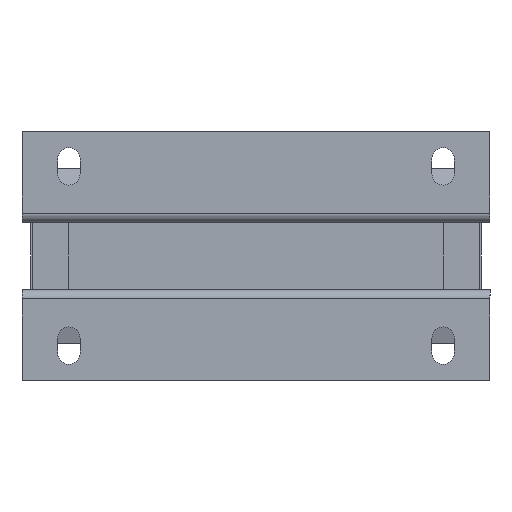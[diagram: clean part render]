
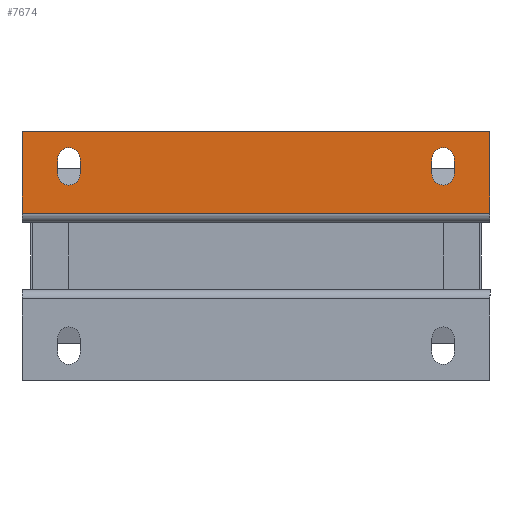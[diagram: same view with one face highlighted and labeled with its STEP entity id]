
A CAD part, front view. The second image highlights one B-rep face of the part: STEP entity #7674.
In plain terms, the highlighted planar face has unit normal (0, -1, 0).
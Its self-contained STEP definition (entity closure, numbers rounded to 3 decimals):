
#199 = AXIS2_PLACEMENT_3D ( 'NONE', #10242, #885, #6234 ) ;
#323 = CARTESIAN_POINT ( 'NONE',  ( -42.4, 0., 20.75 ) ) ;
#380 = EDGE_LOOP ( 'NONE', ( #8517, #800, #11276, #7456 ) ) ;
#421 = DIRECTION ( 'NONE',  ( 0., 1., 0. ) ) ;
#580 = CARTESIAN_POINT ( 'NONE',  ( -37.6, 0., 20.75 ) ) ;
#619 = CARTESIAN_POINT ( 'NONE',  ( 37.6, 0., 17.55 ) ) ;
#800 = ORIENTED_EDGE ( 'NONE', *, *, #11423, .T. ) ;
#855 = ORIENTED_EDGE ( 'NONE', *, *, #7406, .T. ) ;
#885 = DIRECTION ( 'NONE',  ( 0., 1., 0. ) ) ;
#1014 = DIRECTION ( 'NONE',  ( 0., 0., 1. ) ) ;
#1108 = ORIENTED_EDGE ( 'NONE', *, *, #2811, .T. ) ;
#1624 = VERTEX_POINT ( 'NONE', #5926 ) ;
#1645 = VECTOR ( 'NONE', #3404, 1000. ) ;
#1840 = CARTESIAN_POINT ( 'NONE',  ( -50., 0., 26.65 ) ) ;
#1944 = EDGE_LOOP ( 'NONE', ( #7564, #11251, #9301, #4233 ) ) ;
#2067 = VERTEX_POINT ( 'NONE', #7161 ) ;
#2291 = ORIENTED_EDGE ( 'NONE', *, *, #12525, .T. ) ;
#2381 = CARTESIAN_POINT ( 'NONE',  ( -42.4, 0., 17.55 ) ) ;
#2545 = DIRECTION ( 'NONE',  ( 0., 0., -1. ) ) ;
#2677 = CARTESIAN_POINT ( 'NONE',  ( -40., 0., 20.75 ) ) ;
#2699 = EDGE_CURVE ( 'NONE', #11162, #10285, #11431, .T. ) ;
#2811 = EDGE_CURVE ( 'NONE', #13547, #11162, #7403, .T. ) ;
#2815 = DIRECTION ( 'NONE',  ( -1., 0., 0. ) ) ;
#2999 = PLANE ( 'NONE',  #9807 ) ;
#3404 = DIRECTION ( 'NONE',  ( 0., 0., -1. ) ) ;
#3457 = VECTOR ( 'NONE', #10590, 1000. ) ;
#3688 = CARTESIAN_POINT ( 'NONE',  ( 42.4, 0., 20.75 ) ) ;
#3878 = VECTOR ( 'NONE', #11053, 1000. ) ;
#4005 = CIRCLE ( 'NONE', #12957, 2.4 ) ;
#4036 = CARTESIAN_POINT ( 'NONE',  ( -50., 0., 9.15 ) ) ;
#4091 = FACE_BOUND ( 'NONE', #8372, .T. ) ;
#4112 = VERTEX_POINT ( 'NONE', #3688 ) ;
#4218 = CARTESIAN_POINT ( 'NONE',  ( 40., 0., 20.75 ) ) ;
#4233 = ORIENTED_EDGE ( 'NONE', *, *, #10096, .F. ) ;
#4410 = CARTESIAN_POINT ( 'NONE',  ( 40., 0., 17.55 ) ) ;
#4594 = LINE ( 'NONE', #7810, #9656 ) ;
#4605 = DIRECTION ( 'NONE',  ( -1., 0., 0. ) ) ;
#4822 = EDGE_CURVE ( 'NONE', #12117, #6251, #4594, .T. ) ;
#4844 = LINE ( 'NONE', #7924, #3878 ) ;
#5036 = VERTEX_POINT ( 'NONE', #5240 ) ;
#5103 = DIRECTION ( 'NONE',  ( 0., 1., 0. ) ) ;
#5106 = VECTOR ( 'NONE', #10257, 1000. ) ;
#5240 = CARTESIAN_POINT ( 'NONE',  ( -37.6, 0., 17.55 ) ) ;
#5321 = DIRECTION ( 'NONE',  ( 1., 0., 0. ) ) ;
#5323 = VECTOR ( 'NONE', #9056, 1000. ) ;
#5659 = EDGE_CURVE ( 'NONE', #2067, #6870, #4005, .T. ) ;
#5926 = CARTESIAN_POINT ( 'NONE',  ( 37.6, 0., 20.75 ) ) ;
#6017 = AXIS2_PLACEMENT_3D ( 'NONE', #4218, #5103, #7503 ) ;
#6234 = DIRECTION ( 'NONE',  ( -1., 0., 0. ) ) ;
#6251 = VERTEX_POINT ( 'NONE', #4036 ) ;
#6398 = ORIENTED_EDGE ( 'NONE', *, *, #2699, .T. ) ;
#6819 = LINE ( 'NONE', #8740, #1645 ) ;
#6870 = VERTEX_POINT ( 'NONE', #619 ) ;
#7161 = CARTESIAN_POINT ( 'NONE',  ( 42.4, 0., 17.55 ) ) ;
#7403 = LINE ( 'NONE', #10517, #10776 ) ;
#7406 = EDGE_CURVE ( 'NONE', #5036, #13547, #11326, .T. ) ;
#7456 = ORIENTED_EDGE ( 'NONE', *, *, #5659, .T. ) ;
#7503 = DIRECTION ( 'NONE',  ( -1., 0., 0. ) ) ;
#7564 = ORIENTED_EDGE ( 'NONE', *, *, #4822, .T. ) ;
#7674 = ADVANCED_FACE ( 'NONE', ( #9344, #4091, #13532 ), #2999, .F. ) ;
#7810 = CARTESIAN_POINT ( 'NONE',  ( -50., 0., 8.15 ) ) ;
#7924 = CARTESIAN_POINT ( 'NONE',  ( 50., 0., 9.15 ) ) ;
#8155 = LINE ( 'NONE', #8226, #5323 ) ;
#8226 = CARTESIAN_POINT ( 'NONE',  ( -37.6, 0., 20.75 ) ) ;
#8372 = EDGE_LOOP ( 'NONE', ( #1108, #6398, #2291, #855 ) ) ;
#8482 = EDGE_CURVE ( 'NONE', #10270, #11045, #12581, .T. ) ;
#8517 = ORIENTED_EDGE ( 'NONE', *, *, #12434, .T. ) ;
#8740 = CARTESIAN_POINT ( 'NONE',  ( 42.4, 0., 20.75 ) ) ;
#9056 = DIRECTION ( 'NONE',  ( 0., 0., -1. ) ) ;
#9280 = CARTESIAN_POINT ( 'NONE',  ( -50., 0., 8.15 ) ) ;
#9301 = ORIENTED_EDGE ( 'NONE', *, *, #8482, .F. ) ;
#9344 = FACE_BOUND ( 'NONE', #380, .T. ) ;
#9351 = LINE ( 'NONE', #12633, #13003 ) ;
#9656 = VECTOR ( 'NONE', #2545, 1000. ) ;
#9807 = AXIS2_PLACEMENT_3D ( 'NONE', #9280, #13395, #1014 ) ;
#9847 = EDGE_CURVE ( 'NONE', #6251, #11045, #4844, .T. ) ;
#9893 = AXIS2_PLACEMENT_3D ( 'NONE', #2677, #11005, #2815 ) ;
#10083 = CARTESIAN_POINT ( 'NONE',  ( 50., 0., 26.65 ) ) ;
#10096 = EDGE_CURVE ( 'NONE', #12117, #10270, #9351, .T. ) ;
#10242 = CARTESIAN_POINT ( 'NONE',  ( -40., 0., 17.55 ) ) ;
#10257 = DIRECTION ( 'NONE',  ( 0., 0., 1. ) ) ;
#10270 = VERTEX_POINT ( 'NONE', #10083 ) ;
#10285 = VERTEX_POINT ( 'NONE', #580 ) ;
#10517 = CARTESIAN_POINT ( 'NONE',  ( -42.4, 0., 20.75 ) ) ;
#10590 = DIRECTION ( 'NONE',  ( 0., 0., -1. ) ) ;
#10776 = VECTOR ( 'NONE', #13419, 1000. ) ;
#10796 = CIRCLE ( 'NONE', #6017, 2.4 ) ;
#11005 = DIRECTION ( 'NONE',  ( 0., 1., 0. ) ) ;
#11045 = VERTEX_POINT ( 'NONE', #11683 ) ;
#11053 = DIRECTION ( 'NONE',  ( 1., 0., 0. ) ) ;
#11162 = VERTEX_POINT ( 'NONE', #323 ) ;
#11220 = CARTESIAN_POINT ( 'NONE',  ( 37.6, 0., 20.75 ) ) ;
#11251 = ORIENTED_EDGE ( 'NONE', *, *, #9847, .T. ) ;
#11276 = ORIENTED_EDGE ( 'NONE', *, *, #13529, .T. ) ;
#11326 = CIRCLE ( 'NONE', #199, 2.4 ) ;
#11423 = EDGE_CURVE ( 'NONE', #1624, #4112, #10796, .T. ) ;
#11431 = CIRCLE ( 'NONE', #9893, 2.4 ) ;
#11485 = CARTESIAN_POINT ( 'NONE',  ( 50., 0., 8.15 ) ) ;
#11683 = CARTESIAN_POINT ( 'NONE',  ( 50., 0., 9.15 ) ) ;
#12117 = VERTEX_POINT ( 'NONE', #1840 ) ;
#12323 = LINE ( 'NONE', #11220, #5106 ) ;
#12434 = EDGE_CURVE ( 'NONE', #6870, #1624, #12323, .T. ) ;
#12525 = EDGE_CURVE ( 'NONE', #10285, #5036, #8155, .T. ) ;
#12581 = LINE ( 'NONE', #11485, #3457 ) ;
#12633 = CARTESIAN_POINT ( 'NONE',  ( 50., 0., 26.65 ) ) ;
#12957 = AXIS2_PLACEMENT_3D ( 'NONE', #4410, #421, #4605 ) ;
#13003 = VECTOR ( 'NONE', #5321, 1000. ) ;
#13395 = DIRECTION ( 'NONE',  ( 0., 1., 0. ) ) ;
#13419 = DIRECTION ( 'NONE',  ( 0., 0., 1. ) ) ;
#13529 = EDGE_CURVE ( 'NONE', #4112, #2067, #6819, .T. ) ;
#13532 = FACE_OUTER_BOUND ( 'NONE', #1944, .T. ) ;
#13547 = VERTEX_POINT ( 'NONE', #2381 ) ;
